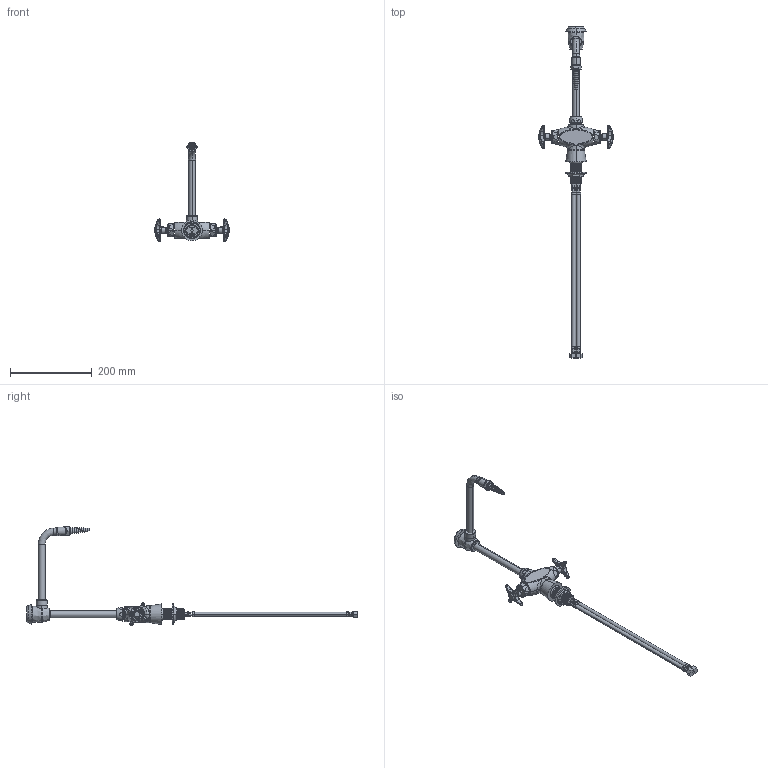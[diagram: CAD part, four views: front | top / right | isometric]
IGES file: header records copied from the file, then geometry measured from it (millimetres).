
Start section:  PTC IGES file: LWM1-B11-F.igs
Global section: file name: LWM1-B11-F.igs; native system: Creo Parametric by PTC Inc.; preprocessor: 2014500; author: usch_engrender; organization: Unknown; date: 20160210.121443; units: inch
Bounding box: 183.41 x 810.88 x 242.69 mm (x, y, z)
Surface area: 141344.1 mm2 (no closed solid volume)
Topology: 0 solids, 78 shells, 689 faces, 1933 edges, 1296 vertices
Faces by surface type: bspline 403, revolution 286
